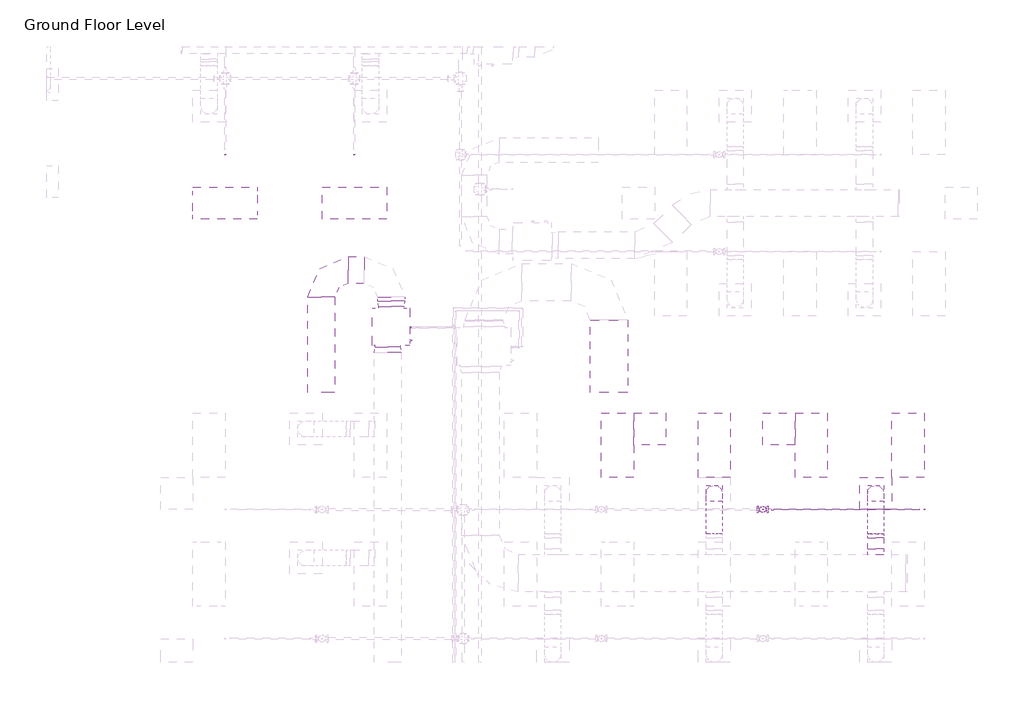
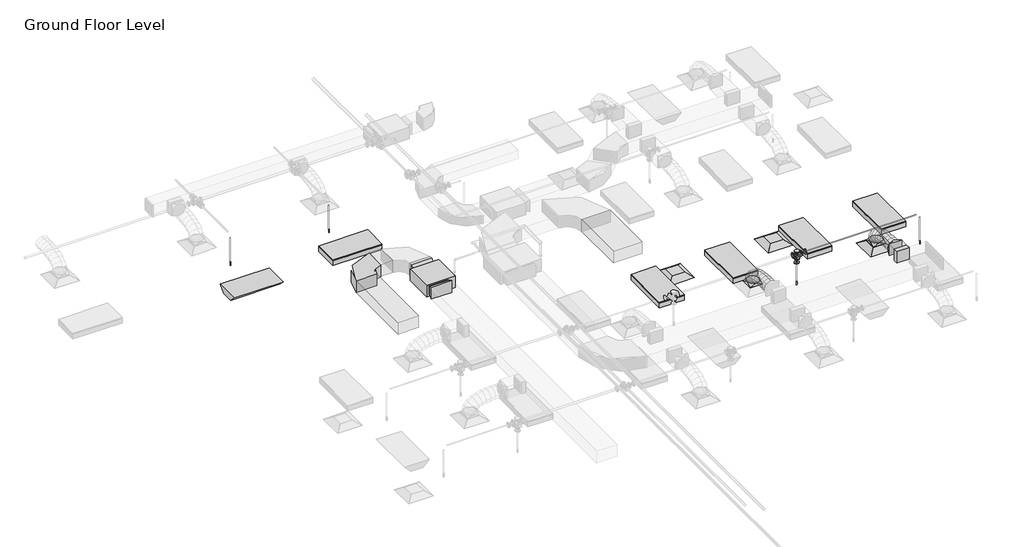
# One storey, part 32 of 66: 7 duct fittings, 7 duct segments, 6 light fixtures, 5 pipe segments, 4 fire suppression terminals, 3 air terminals, 3 pipe fittings, 1 proxy.
"""IFC4 building model written with IfcOpenShell, lengths in millimetres."""

from ifc_helpers import new_model, si_unit, point, frame, frame_2d, origin, place, context, project, spatial, polyline, circle_curve, ellipse_curve, trimmed, segment, composite_curve, outline, extrude, transform, mapped, element, save
from ifc_brep_helpers import plane_surface, cylinder_surface, advanced_brep
from components import m_return_diffuser_600_x_600_face_300_x_300_connection_ff221211, fcu_daikin_iu_bad131e0, m_rectangular_elbow_radius_1_w_abe20169, m_rectangular_takeoff_standard_cb0ccb98, m_rectangular_transition_angle_45_degree_3cf6e25b, m_rectangular_transition_angle_45_degree_f7c2916c, m_rectangular_to_round_transition_angle_45_degree_641efff0, m_sprinkler_dry_pendent_hosted_15_mm_dry_pendent_9bda8e11, m_emergency_recessed_lighting_fixture_600x1200_277_5b10b25d, m_troffer_light_parabolic_rectangular1_0600x1200mm_4_lamp_86473d4a, m_reducer_flanged_cs_class_150_standard_ccf252ad, m_tee_round_base_flanged_cs_class_150_standard_7e5987a1

model = new_model("IFC4")

# Units and contexts
model_context = context("Model", 3, world=origin())
ifc_project = project(units=[si_unit("LENGTHUNIT", "METRE", prefix="MILLI")], contexts=[model_context])

# Site, building, storey
site = spatial("IfcSite", under=ifc_project)
building = spatial("IfcBuilding", under=site)
storey = spatial("IfcBuildingStorey", under=building, Name="Ground Floor Level", Elevation=900.0)

# Air terminals
placement = place(None, origin())
m_return_diffuser_600_x_600_face_300_x_300_connection_shape = m_return_diffuser_600_x_600_face_300_x_300_connection_ff221211(model_context)
element("IfcAirTerminal", 1, ObjectType="M_Return Diffuser : 600 x 600 Face 300 x 300 Connection", at=placement, inside=storey, context=model_context, shape_type="MappedRepresentation", body=[
    mapped(m_return_diffuser_600_x_600_face_300_x_300_connection_shape, transform((9152.7672395, -9464.7846466, 3650.0), x_axis=(1.0, 0.0, 0.0), y_axis=(0.0, 1.0, 0.0), z_axis=(0.0, 0.0, 1.0))),
])
element("IfcAirTerminal", 2, ObjectType="M_Return Diffuser : 600 x 600 Face 300 x 300 Connection", at=placement, inside=storey, context=model_context, shape_type="MappedRepresentation", body=[
    mapped(m_return_diffuser_600_x_600_face_300_x_300_connection_shape, transform((11552.7672395, -9464.7846466, 3650.0), x_axis=(1.0, 0.0, 0.0), y_axis=(0.0, 1.0, 0.0), z_axis=(0.0, 0.0, 1.0))),
])
element("IfcAirTerminal", 3, ObjectType="M_Supply Diffuser : 600 x 600 Face 300 x 300 Connection", at=placement, inside=storey, context=model_context, shape_type="MappedRepresentation", body=[
    mapped(m_return_diffuser_600_x_600_face_300_x_300_connection_shape, transform((13352.7672395, -10664.7846466, 3650.0), x_axis=(1.0, 0.0, 0.0), y_axis=(0.0, 1.0, 0.0), z_axis=(0.0, 0.0, 1.0))),
])

# Proxy
fcu_daikin_iu_shape = fcu_daikin_iu_bad131e0(model_context)
element("IfcBuildingElementProxy", 4, Name="FCU-DAIKIN IU : 4.5kW, 230V/50Hz/1Ph", ObjectType="FCU-DAIKIN IU : 4.5kW, 230V/50Hz/1Ph", at=placement, inside=storey, context=model_context, shape_type="MappedRepresentation", body=[
    mapped(fcu_daikin_iu_shape, transform((4345.6581888, -7565.0566353, 3934.0874218), x_axis=(1.0, 0.0, 0.0), y_axis=(0.0, 1.0, 0.0), z_axis=(0.0, 0.0, 1.0))),
])

# Duct fittings
m_rectangular_elbow_radius_1_w_shape = m_rectangular_elbow_radius_1_w_abe20169(model_context)
element("IfcDuctFitting", 5, ObjectType="M_Rectangular Elbow - Radius : 1 W", at=placement, inside=storey, context=model_context, shape_type="MappedRepresentation", body=[
    mapped(m_rectangular_elbow_radius_1_w_shape, transform((3045.6581888, -6509.6566353, 4075.2874218), x_axis=(-1.0, 0.0, 0.0), y_axis=(0.0, -1.0, 0.0), z_axis=(0.0, 0.0, 1.0))),
])
m_rectangular_takeoff_standard_shape = m_rectangular_takeoff_standard_cb0ccb98(model_context)
element("IfcDuctFitting", 6, ObjectType="M_Rectangular Takeoff : Standard", at=placement, inside=storey, context=model_context, shape_type="MappedRepresentation", body=[
    mapped(m_rectangular_takeoff_standard_shape, transform((13352.7672395, -11799.3358641, 4099.9875), x_axis=(0.0, 1.0, 0.0), y_axis=(1.0, 0.0, 0.0), z_axis=(0.0, 0.0, -1.0))),
])
m_rectangular_transition_angle_45_degree_shape = m_rectangular_transition_angle_45_degree_3cf6e25b(model_context)
element("IfcDuctFitting", 7, ObjectType="M_Rectangular Transition - Angle : 45 Degree", at=placement, inside=storey, context=model_context, shape_type="MappedRepresentation", body=[
    mapped(m_rectangular_transition_angle_45_degree_shape, transform((4282.1581888, -7940.4566353, 4099.9999218), x_axis=(0.0, -1.0, 0.0), y_axis=(1.0, 0.0, 0.0), z_axis=(0.0, 0.0, 1.0))),
])
m_rectangular_transition_angle_45_degree_2_shape = m_rectangular_transition_angle_45_degree_f7c2916c(model_context)
element("IfcDuctFitting", 8, ObjectType="M_Rectangular Transition - Angle : 45 Degree", at=placement, inside=storey, context=model_context, shape_type="MappedRepresentation", body=[
    mapped(m_rectangular_transition_angle_45_degree_2_shape, transform((4345.6581888, -7189.6566353, 4075.2874218), x_axis=(0.0, 1.0, 0.0), y_axis=(-1.0, 0.0, 0.0), z_axis=(0.0, 0.0, 1.0))),
])
m_rectangular_to_round_transition_angle_45_degree_shape = m_rectangular_to_round_transition_angle_45_degree_641efff0(model_context)
element("IfcDuctFitting", 9, ObjectType="M_Rectangular to Round Transition - Angle : 45 Degree", at=placement, inside=storey, context=model_context, shape_type="MappedRepresentation", body=[
    mapped(m_rectangular_to_round_transition_angle_45_degree_shape, transform((10352.7672395, -10664.7846466, 3751.6), x_axis=(0.0, 0.0, 1.0), y_axis=(-1.0, 0.0, 0.0), z_axis=(0.0, -1.0, 0.0))),
])
element("IfcDuctFitting", 10, ObjectType="M_Rectangular to Round Transition - Angle : 45 Degree", at=placement, inside=storey, context=model_context, shape_type="MappedRepresentation", body=[
    mapped(m_rectangular_to_round_transition_angle_45_degree_shape, transform((13352.7672395, -10664.7846466, 3751.6), x_axis=(0.0, 0.0, 1.0), y_axis=(-1.0, 0.0, 0.0), z_axis=(0.0, -1.0, 0.0))),
])
element("IfcDuctFitting", 11, ObjectType="M_Rectangular to Round Transition - Angle : 45 Degree", at=placement, inside=storey, context=model_context, shape_type="MappedRepresentation", body=[
    mapped(m_rectangular_to_round_transition_angle_45_degree_shape, transform((13352.7672395, -11492.1330779, 4099.9875), x_axis=(0.0, 1.0, 0.0), y_axis=(-1.0, 0.0, 0.0), z_axis=(0.0, 0.0, 1.0))),
])

# Duct segments
element("IfcDuctSegment", 12, ObjectType="Flex - Round", at=placement, inside=storey, context=model_context, shape_type="AdvancedBrep", body=[
    advanced_brep(
    [(10502.7672395, -10664.7846466, 3826.6), (10352.7672395, -10814.7846466, 3826.6), (10202.7672395, -10664.7846466, 3826.6), (10352.7672395, -10514.7846466, 3826.6), (10502.7672395, -10664.7846466, 3857.9382361), (10352.7672395, -10814.7846466, 3832.2943726), (10202.7672395, -10664.7846466, 3857.9382361), (10352.7672395, -10514.7846466, 3883.5820996), (10502.7672395, -10681.8009258, 3906.2508008), (10352.7672395, -10815.5381175, 3834.4336246), (10202.7672395, -10681.8009258, 3906.2508008), (10352.7672395, -10548.0637341, 3978.0679769), (10502.7672395, -10728.9857498, 3968.710741), (10352.7672395, -10833.1895095, 3857.7992917), (10202.7672395, -10728.9857498, 3968.710741), (10352.7672395, -10624.78199, 4079.6221903), (10502.7672395, -10800.5430984, 4016.0679312), (10352.7672395, -10869.4737825, 3881.8124958), (10202.7672395, -10800.5430984, 4016.0679312), (10352.7672395, -10731.6124143, 4150.3233665), (10502.7672395, -10890.6769515, 4050.4104815), (10352.7672395, -10934.2340294, 3906.4872652), (10202.7672395, -10890.6769515, 4050.4104815), (10352.7672395, -10847.1198737, 4194.3336978), (10502.7672395, -10993.591289, 4073.8265025), (10352.7672395, -11020.1487195, 3926.0353694), (10202.7672395, -10993.591289, 4073.8265025), (10352.7672395, -10967.0338584, 4221.6176356), (10502.7672395, -11103.4900905, 4088.4041045), (10352.7672395, -11118.6379564, 3939.0995418), (10202.7672395, -11103.4900905, 4088.4041045), (10352.7672395, -11088.3422246, 4237.7086671), (10502.7672395, -11214.5773359, 4096.2313978), (10352.7672395, -11222.0803018, 3946.3881695), (10202.7672395, -11214.5773359, 4096.2313978), (10352.7672395, -11207.0743701, 4246.074626), (10502.7672395, -11321.0570051, 4099.3964928), (10352.7672395, -11323.7471101, 3949.4102029), (10202.7672395, -11321.0570051, 4099.3964928), (10352.7672395, -11318.3669002, 4249.3827828), (10502.7672395, -11417.1330779, 4099.9875), (10352.7672395, -11416.2103779, 4249.9846621), (10202.7672395, -11417.1330779, 4099.9875), (10352.7672395, -11418.0557779, 3949.9903379)],
    [
        (0, 1, circle_curve(frame((10352.7672395, -10664.7846466, 3826.6), z_axis=(0.0, 0.0, -1.0), x_axis=(1.0, 0.0, 0.0)), 150.0)),
        (1, 2, circle_curve(frame((10352.7672395, -10664.7846466, 3826.6), z_axis=(0.0, 0.0, -1.0), x_axis=(1.0, 0.0, 0.0)), 150.0)),
        (2, 3, circle_curve(frame((10352.7672395, -10664.7846466, 3826.6), z_axis=(0.0, 0.0, -1.0), x_axis=(1.0, 0.0, 0.0)), 150.0)),
        (3, 0, circle_curve(frame((10352.7672395, -10664.7846466, 3826.6), z_axis=(0.0, 0.0, -1.0), x_axis=(1.0, 0.0, 0.0)), 150.0)),
        (0, 4),
        (4, 5, ellipse_curve(frame((10352.7672395, -10664.7846466, 3857.9382361), z_axis=(0.0, 0.16851424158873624, -0.9856992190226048), x_axis=(0.0, -0.9856992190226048, -0.16851424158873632)), 152.1762391, 150.0)),
        (5, 1),
        (5, 6, ellipse_curve(frame((10352.7672395, -10664.7846466, 3857.9382361), z_axis=(0.0, 0.16851424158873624, -0.9856992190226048), x_axis=(0.0, -0.9856992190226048, -0.16851424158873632)), 152.1762391, 150.0)),
        (6, 2),
        (6, 7, ellipse_curve(frame((10352.7672395, -10664.7846466, 3857.9382361), z_axis=(0.0, 0.16851424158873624, -0.9856992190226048), x_axis=(0.0, -0.9856992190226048, -0.16851424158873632)), 152.1762391, 150.0)),
        (7, 3),
        (7, 4, ellipse_curve(frame((10352.7672395, -10664.7846466, 3857.9382361), z_axis=(0.0, 0.16851424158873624, -0.9856992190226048), x_axis=(0.0, -0.9856992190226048, -0.16851424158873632)), 152.1762391, 150.0)),
        (4, 8),
        (8, 9, ellipse_curve(frame((10352.7672395, -10681.8009258, 3906.2508008), z_axis=(0.0, 0.4731028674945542, -0.8810071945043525), x_axis=(0.0, -0.8810071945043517, -0.47310286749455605)), 151.80034, 150.0)),
        (9, 5),
        (9, 10, ellipse_curve(frame((10352.7672395, -10681.8009258, 3906.2508008), z_axis=(0.0, 0.4731028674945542, -0.8810071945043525), x_axis=(0.0, -0.8810071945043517, -0.47310286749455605)), 151.80034, 150.0)),
        (10, 6),
        (10, 11, ellipse_curve(frame((10352.7672395, -10681.8009258, 3906.2508008), z_axis=(0.0, 0.4731028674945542, -0.8810071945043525), x_axis=(0.0, -0.8810071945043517, -0.47310286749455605)), 151.80034, 150.0)),
        (11, 7),
        (11, 8, ellipse_curve(frame((10352.7672395, -10681.8009258, 3906.2508008), z_axis=(0.0, 0.4731028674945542, -0.8810071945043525), x_axis=(0.0, -0.8810071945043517, -0.47310286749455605)), 151.80034, 150.0)),
        (8, 12),
        (12, 13, ellipse_curve(frame((10352.7672395, -10728.9857498, 3968.710741), z_axis=(0.0, 0.7288014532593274, -0.6847250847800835), x_axis=(0.0, -0.6847250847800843, -0.7288014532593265)), 152.1833536, 150.0)),
        (13, 9),
        (13, 14, ellipse_curve(frame((10352.7672395, -10728.9857498, 3968.710741), z_axis=(0.0, 0.7288014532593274, -0.6847250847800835), x_axis=(0.0, -0.6847250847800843, -0.7288014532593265)), 152.1833536, 150.0)),
        (14, 10),
        (14, 15, ellipse_curve(frame((10352.7672395, -10728.9857498, 3968.710741), z_axis=(0.0, 0.7288014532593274, -0.6847250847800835), x_axis=(0.0, -0.6847250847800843, -0.7288014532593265)), 152.1833536, 150.0)),
        (15, 11),
        (15, 12, ellipse_curve(frame((10352.7672395, -10728.9857498, 3968.710741), z_axis=(0.0, 0.7288014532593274, -0.6847250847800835), x_axis=(0.0, -0.6847250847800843, -0.7288014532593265)), 152.1833536, 150.0)),
        (12, 16),
        (16, 17, ellipse_curve(frame((10352.7672395, -10800.5430984, 4016.0679312), z_axis=(0.0, 0.8895974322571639, -0.45674545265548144), x_axis=(0.0, -0.45674545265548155, -0.889597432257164)), 150.9170671, 150.0)),
        (17, 13),
        (17, 18, ellipse_curve(frame((10352.7672395, -10800.5430984, 4016.0679312), z_axis=(0.0, 0.8895974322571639, -0.45674545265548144), x_axis=(0.0, -0.45674545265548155, -0.889597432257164)), 150.9170671, 150.0)),
        (18, 14),
        (18, 19, ellipse_curve(frame((10352.7672395, -10800.5430984, 4016.0679312), z_axis=(0.0, 0.8895974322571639, -0.45674545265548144), x_axis=(0.0, -0.45674545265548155, -0.889597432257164)), 150.9170671, 150.0)),
        (19, 15),
        (19, 16, ellipse_curve(frame((10352.7672395, -10800.5430984, 4016.0679312), z_axis=(0.0, 0.8895974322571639, -0.45674545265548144), x_axis=(0.0, -0.45674545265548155, -0.889597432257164)), 150.9170671, 150.0)),
        (16, 20),
        (20, 21, ellipse_curve(frame((10352.7672395, -10890.6769515, 4050.4104815), z_axis=(0.0, 0.9571277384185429, -0.28966617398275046), x_axis=(0.0, -0.2896661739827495, -0.9571277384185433)), 150.3699146, 150.0)),
        (21, 17),
        (21, 22, ellipse_curve(frame((10352.7672395, -10890.6769515, 4050.4104815), z_axis=(0.0, 0.9571277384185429, -0.28966617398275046), x_axis=(0.0, -0.2896661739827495, -0.9571277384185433)), 150.3699146, 150.0)),
        (22, 18),
        (22, 23, ellipse_curve(frame((10352.7672395, -10890.6769515, 4050.4104815), z_axis=(0.0, 0.9571277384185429, -0.28966617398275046), x_axis=(0.0, -0.2896661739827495, -0.9571277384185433)), 150.3699146, 150.0)),
        (23, 19),
        (23, 20, ellipse_curve(frame((10352.7672395, -10890.6769515, 4050.4104815), z_axis=(0.0, 0.9571277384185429, -0.28966617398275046), x_axis=(0.0, -0.2896661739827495, -0.9571277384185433)), 150.3699146, 150.0)),
        (20, 24),
        (24, 25, ellipse_curve(frame((10352.7672395, -10993.591289, 4073.8265025), z_axis=(0.0, 0.9842355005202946, -0.17686288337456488), x_axis=(0.0, -0.17686288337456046, -0.9842355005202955)), 150.1583036, 150.0)),
        (25, 21),
        (25, 26, ellipse_curve(frame((10352.7672395, -10993.591289, 4073.8265025), z_axis=(0.0, 0.9842355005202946, -0.17686288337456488), x_axis=(0.0, -0.17686288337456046, -0.9842355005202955)), 150.1583036, 150.0)),
        (26, 22),
        (26, 27, ellipse_curve(frame((10352.7672395, -10993.591289, 4073.8265025), z_axis=(0.0, 0.9842355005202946, -0.17686288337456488), x_axis=(0.0, -0.17686288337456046, -0.9842355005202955)), 150.1583036, 150.0)),
        (27, 23),
        (27, 24, ellipse_curve(frame((10352.7672395, -10993.591289, 4073.8265025), z_axis=(0.0, 0.9842355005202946, -0.17686288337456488), x_axis=(0.0, -0.17686288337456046, -0.9842355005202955)), 150.1583036, 150.0)),
        (24, 28),
        (28, 29, ellipse_curve(frame((10352.7672395, -11103.4900905, 4088.4041045), z_axis=(0.0, 0.9948927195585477, -0.10093798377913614), x_axis=(0.0, -0.1009379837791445, -0.9948927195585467)), 150.0710174, 150.0)),
        (29, 25),
        (29, 30, ellipse_curve(frame((10352.7672395, -11103.4900905, 4088.4041045), z_axis=(0.0, 0.9948927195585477, -0.10093798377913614), x_axis=(0.0, -0.1009379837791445, -0.9948927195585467)), 150.0710174, 150.0)),
        (30, 26),
        (30, 31, ellipse_curve(frame((10352.7672395, -11103.4900905, 4088.4041045), z_axis=(0.0, 0.9948927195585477, -0.10093798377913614), x_axis=(0.0, -0.1009379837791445, -0.9948927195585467)), 150.0710174, 150.0)),
        (31, 27),
        (31, 28, ellipse_curve(frame((10352.7672395, -11103.4900905, 4088.4041045), z_axis=(0.0, 0.9948927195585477, -0.10093798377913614), x_axis=(0.0, -0.1009379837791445, -0.9948927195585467)), 150.0710174, 150.0)),
        (28, 32),
        (32, 33, ellipse_curve(frame((10352.7672395, -11214.5773359, 4096.2313978), z_axis=(0.0, 0.9987487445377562, -0.05000945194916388), x_axis=(0.0, -0.05000945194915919, -0.9987487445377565)), 150.0309553, 150.0)),
        (33, 29),
        (33, 34, ellipse_curve(frame((10352.7672395, -11214.5773359, 4096.2313978), z_axis=(0.0, 0.9987487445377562, -0.05000945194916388), x_axis=(0.0, -0.05000945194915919, -0.9987487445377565)), 150.0309553, 150.0)),
        (34, 30),
        (34, 35, ellipse_curve(frame((10352.7672395, -11214.5773359, 4096.2313978), z_axis=(0.0, 0.9987487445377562, -0.05000945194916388), x_axis=(0.0, -0.05000945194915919, -0.9987487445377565)), 150.0309553, 150.0)),
        (35, 31),
        (35, 32, ellipse_curve(frame((10352.7672395, -11214.5773359, 4096.2313978), z_axis=(0.0, 0.9987487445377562, -0.05000945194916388), x_axis=(0.0, -0.05000945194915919, -0.9987487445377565)), 150.0309553, 150.0)),
        (32, 36),
        (36, 37, ellipse_curve(frame((10352.7672395, -11321.0570051, 4099.3964928), z_axis=(0.0, 0.9998391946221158, -0.017932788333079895), x_axis=(0.0, -0.017932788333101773, -0.9998391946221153)), 150.0104124, 150.0)),
        (37, 33),
        (37, 38, ellipse_curve(frame((10352.7672395, -11321.0570051, 4099.3964928), z_axis=(0.0, 0.9998391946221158, -0.017932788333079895), x_axis=(0.0, -0.017932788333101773, -0.9998391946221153)), 150.0104124, 150.0)),
        (38, 34),
        (38, 39, ellipse_curve(frame((10352.7672395, -11321.0570051, 4099.3964928), z_axis=(0.0, 0.9998391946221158, -0.017932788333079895), x_axis=(0.0, -0.017932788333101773, -0.9998391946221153)), 150.0104124, 150.0)),
        (39, 35),
        (39, 36, ellipse_curve(frame((10352.7672395, -11321.0570051, 4099.3964928), z_axis=(0.0, 0.9998391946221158, -0.017932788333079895), x_axis=(0.0, -0.017932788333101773, -0.9998391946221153)), 150.0104124, 150.0)),
        (40, 41, circle_curve(frame((10352.7672395, -11417.1330779, 4099.9875), z_axis=(0.0, -0.999981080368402, 0.0061513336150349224), x_axis=(1.0, 0.0, 0.0)), 150.0)),
        (41, 42, circle_curve(frame((10352.7672395, -11417.1330779, 4099.9875), z_axis=(0.0, -0.999981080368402, 0.0061513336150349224), x_axis=(1.0, 0.0, 0.0)), 150.0)),
        (42, 43, circle_curve(frame((10352.7672395, -11417.1330779, 4099.9875), z_axis=(0.0, -0.999981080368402, 0.0061513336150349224), x_axis=(1.0, 0.0, 0.0)), 150.0)),
        (43, 40, circle_curve(frame((10352.7672395, -11417.1330779, 4099.9875), z_axis=(0.0, -0.999981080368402, 0.0061513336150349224), x_axis=(1.0, 0.0, 0.0)), 150.0)),
        (36, 40),
        (43, 37),
        (42, 38),
        (41, 39),
    ],
    [
        plane_surface(frame((10352.7672395, -10814.7846466, 3826.6), z_axis=(0.0, 0.0, -1.0), x_axis=(1.0, 0.0, 0.0))),
        cylinder_surface(frame((10352.7672395, -10664.7846466, 3826.6), z_axis=(0.0, 0.0, -1.0), x_axis=(1.0, 0.0, 0.0)), 150.0),
        cylinder_surface(frame((10352.7672395, -10664.7846466, 3857.9382361), z_axis=(0.0, 0.3322087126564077, -0.943205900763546), x_axis=(1.0, 0.0, 0.0)), 150.0),
        cylinder_surface(frame((10352.7672395, -10681.8009258, 3906.2508008), z_axis=(0.0, 0.6027750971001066, -0.797911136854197), x_axis=(1.0, 0.0, 0.0)), 150.0),
        cylinder_surface(frame((10352.7672395, -10728.9857498, 3968.710741), z_axis=(0.0, 0.8339157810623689, -0.5518917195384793), x_axis=(1.0, 0.0, 0.0)), 150.0),
        cylinder_surface(frame((10352.7672395, -10800.5430984, 4016.0679312), z_axis=(0.0, 0.9344675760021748, -0.3560482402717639), x_axis=(1.0, 0.0, 0.0)), 150.0),
        cylinder_surface(frame((10352.7672395, -10890.6769515, 4050.4104815), z_axis=(0.0, 0.9750787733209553, -0.22185893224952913), x_axis=(1.0, 0.0, 0.0)), 150.0),
        cylinder_surface(frame((10352.7672395, -10993.591289, 4073.8265025), z_axis=(0.0, 0.9913169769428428, -0.13149392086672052), x_axis=(1.0, 0.0, 0.0)), 150.0),
        cylinder_surface(frame((10352.7672395, -11103.4900905, 4088.4041045), z_axis=(0.0, 0.9975268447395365, -0.07028651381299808), x_axis=(1.0, 0.0, 0.0)), 150.0),
        cylinder_surface(frame((10352.7672395, -11214.5773359, 4096.2313978), z_axis=(0.0, 0.999558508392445, -0.029711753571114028), x_axis=(1.0, 0.0, 0.0)), 150.0),
        plane_surface(frame((10352.7672395, -11418.0557779, 3949.9903379), z_axis=(0.0, -0.999981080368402, 0.006151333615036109), x_axis=(1.0, 0.0, 0.0))),
        cylinder_surface(frame((10352.7672395, -11321.0570051, 4099.3964928), z_axis=(0.0, 0.999981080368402, -0.0061513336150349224), x_axis=(1.0, 0.0, 0.0)), 150.0),
    ],
    [
        (0, [[1, 2, 3, 4]]),
        (1, [[-1, 5, 6, 7]]),
        (1, [[-2, -7, 8, 9]]),
        (1, [[-3, -9, 10, 11]]),
        (1, [[-4, -11, 12, -5]]),
        (2, [[-6, 13, 14, 15]]),
        (2, [[-8, -15, 16, 17]]),
        (2, [[-10, -17, 18, 19]]),
        (2, [[-12, -19, 20, -13]]),
        (3, [[-14, 21, 22, 23]]),
        (3, [[-16, -23, 24, 25]]),
        (3, [[-18, -25, 26, 27]]),
        (3, [[-20, -27, 28, -21]]),
        (4, [[-22, 29, 30, 31]]),
        (4, [[-24, -31, 32, 33]]),
        (4, [[-26, -33, 34, 35]]),
        (4, [[-28, -35, 36, -29]]),
        (5, [[-30, 37, 38, 39]]),
        (5, [[-32, -39, 40, 41]]),
        (5, [[-34, -41, 42, 43]]),
        (5, [[-36, -43, 44, -37]]),
        (6, [[-38, 45, 46, 47]]),
        (6, [[-40, -47, 48, 49]]),
        (6, [[-42, -49, 50, 51]]),
        (6, [[-44, -51, 52, -45]]),
        (7, [[-46, 53, 54, 55]]),
        (7, [[-48, -55, 56, 57]]),
        (7, [[-50, -57, 58, 59]]),
        (7, [[-52, -59, 60, -53]]),
        (8, [[-54, 61, 62, 63]]),
        (8, [[-56, -63, 64, 65]]),
        (8, [[-58, -65, 66, 67]]),
        (8, [[-60, -67, 68, -61]]),
        (9, [[-62, 69, 70, 71]]),
        (9, [[-64, -71, 72, 73]]),
        (9, [[-66, -73, 74, 75]]),
        (9, [[-68, -75, 76, -69]]),
        (10, [[77, 78, 79, 80]]),
        (11, [[-70, 81, -80, 82]]),
        (11, [[-72, -82, -79, 83]]),
        (11, [[-74, -83, -78, 84]]),
        (11, [[-76, -84, -77, -81]]),
    ],
),
])
element("IfcDuctSegment", 13, ObjectType="Flex - Round", at=placement, inside=storey, context=model_context, shape_type="AdvancedBrep", body=[
    advanced_brep(
    [(13502.7672395, -10664.7846466, 3826.6), (13352.7672395, -10814.7846466, 3826.6), (13202.7672395, -10664.7846466, 3826.6), (13352.7672395, -10514.7846466, 3826.6), (13502.7672395, -10664.7846466, 3857.9382361), (13352.7672395, -10814.7846466, 3832.2943726), (13202.7672395, -10664.7846466, 3857.9382361), (13352.7672395, -10514.7846466, 3883.5820996), (13502.7672395, -10681.8009258, 3906.2508008), (13352.7672395, -10815.5381175, 3834.4336246), (13202.7672395, -10681.8009258, 3906.2508008), (13352.7672395, -10548.0637341, 3978.0679769), (13502.7672395, -10728.9857498, 3968.710741), (13352.7672395, -10833.1895095, 3857.7992917), (13202.7672395, -10728.9857498, 3968.710741), (13352.7672395, -10624.78199, 4079.6221903), (13502.7672395, -10800.5430984, 4016.0679312), (13352.7672395, -10869.4737825, 3881.8124958), (13202.7672395, -10800.5430984, 4016.0679312), (13352.7672395, -10731.6124143, 4150.3233665), (13502.7672395, -10890.6769515, 4050.4104815), (13352.7672395, -10934.2340294, 3906.4872652), (13202.7672395, -10890.6769515, 4050.4104815), (13352.7672395, -10847.1198737, 4194.3336978), (13502.7672395, -10993.591289, 4073.8265025), (13352.7672395, -11020.1487195, 3926.0353694), (13202.7672395, -10993.591289, 4073.8265025), (13352.7672395, -10967.0338584, 4221.6176356), (13502.7672395, -11103.4900905, 4088.4041045), (13352.7672395, -11118.6379564, 3939.0995418), (13202.7672395, -11103.4900905, 4088.4041045), (13352.7672395, -11088.3422246, 4237.7086671), (13502.7672395, -11214.5773359, 4096.2313978), (13352.7672395, -11222.0803018, 3946.3881695), (13202.7672395, -11214.5773359, 4096.2313978), (13352.7672395, -11207.0743701, 4246.074626), (13502.7672395, -11321.0570051, 4099.3964928), (13352.7672395, -11323.7471101, 3949.4102029), (13202.7672395, -11321.0570051, 4099.3964928), (13352.7672395, -11318.3669002, 4249.3827828), (13502.7672395, -11417.1330779, 4099.9875), (13352.7672395, -11416.2103779, 4249.9846621), (13202.7672395, -11417.1330779, 4099.9875), (13352.7672395, -11418.0557779, 3949.9903379)],
    [
        (0, 1, circle_curve(frame((13352.7672395, -10664.7846466, 3826.6), z_axis=(0.0, 0.0, -1.0), x_axis=(1.0, 0.0, 0.0)), 150.0)),
        (1, 2, circle_curve(frame((13352.7672395, -10664.7846466, 3826.6), z_axis=(0.0, 0.0, -1.0), x_axis=(1.0, 0.0, 0.0)), 150.0)),
        (2, 3, circle_curve(frame((13352.7672395, -10664.7846466, 3826.6), z_axis=(0.0, 0.0, -1.0), x_axis=(1.0, 0.0, 0.0)), 150.0)),
        (3, 0, circle_curve(frame((13352.7672395, -10664.7846466, 3826.6), z_axis=(0.0, 0.0, -1.0), x_axis=(1.0, 0.0, 0.0)), 150.0)),
        (0, 4),
        (4, 5, ellipse_curve(frame((13352.7672395, -10664.7846466, 3857.9382361), z_axis=(0.0, 0.16851424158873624, -0.9856992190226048), x_axis=(0.0, -0.9856992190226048, -0.16851424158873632)), 152.1762391, 150.0)),
        (5, 1),
        (5, 6, ellipse_curve(frame((13352.7672395, -10664.7846466, 3857.9382361), z_axis=(0.0, 0.16851424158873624, -0.9856992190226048), x_axis=(0.0, -0.9856992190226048, -0.16851424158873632)), 152.1762391, 150.0)),
        (6, 2),
        (6, 7, ellipse_curve(frame((13352.7672395, -10664.7846466, 3857.9382361), z_axis=(0.0, 0.16851424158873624, -0.9856992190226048), x_axis=(0.0, -0.9856992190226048, -0.16851424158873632)), 152.1762391, 150.0)),
        (7, 3),
        (7, 4, ellipse_curve(frame((13352.7672395, -10664.7846466, 3857.9382361), z_axis=(0.0, 0.16851424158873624, -0.9856992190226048), x_axis=(0.0, -0.9856992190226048, -0.16851424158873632)), 152.1762391, 150.0)),
        (4, 8),
        (8, 9, ellipse_curve(frame((13352.7672395, -10681.8009258, 3906.2508008), z_axis=(0.0, 0.4731028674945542, -0.8810071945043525), x_axis=(0.0, -0.8810071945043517, -0.47310286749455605)), 151.80034, 150.0)),
        (9, 5),
        (9, 10, ellipse_curve(frame((13352.7672395, -10681.8009258, 3906.2508008), z_axis=(0.0, 0.4731028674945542, -0.8810071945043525), x_axis=(0.0, -0.8810071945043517, -0.47310286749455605)), 151.80034, 150.0)),
        (10, 6),
        (10, 11, ellipse_curve(frame((13352.7672395, -10681.8009258, 3906.2508008), z_axis=(0.0, 0.4731028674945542, -0.8810071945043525), x_axis=(0.0, -0.8810071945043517, -0.47310286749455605)), 151.80034, 150.0)),
        (11, 7),
        (11, 8, ellipse_curve(frame((13352.7672395, -10681.8009258, 3906.2508008), z_axis=(0.0, 0.4731028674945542, -0.8810071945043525), x_axis=(0.0, -0.8810071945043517, -0.47310286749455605)), 151.80034, 150.0)),
        (8, 12),
        (12, 13, ellipse_curve(frame((13352.7672395, -10728.9857498, 3968.710741), z_axis=(0.0, 0.7288014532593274, -0.6847250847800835), x_axis=(0.0, -0.6847250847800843, -0.7288014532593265)), 152.1833536, 150.0)),
        (13, 9),
        (13, 14, ellipse_curve(frame((13352.7672395, -10728.9857498, 3968.710741), z_axis=(0.0, 0.7288014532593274, -0.6847250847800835), x_axis=(0.0, -0.6847250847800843, -0.7288014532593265)), 152.1833536, 150.0)),
        (14, 10),
        (14, 15, ellipse_curve(frame((13352.7672395, -10728.9857498, 3968.710741), z_axis=(0.0, 0.7288014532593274, -0.6847250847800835), x_axis=(0.0, -0.6847250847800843, -0.7288014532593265)), 152.1833536, 150.0)),
        (15, 11),
        (15, 12, ellipse_curve(frame((13352.7672395, -10728.9857498, 3968.710741), z_axis=(0.0, 0.7288014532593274, -0.6847250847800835), x_axis=(0.0, -0.6847250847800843, -0.7288014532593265)), 152.1833536, 150.0)),
        (12, 16),
        (16, 17, ellipse_curve(frame((13352.7672395, -10800.5430984, 4016.0679312), z_axis=(0.0, 0.8895974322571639, -0.45674545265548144), x_axis=(0.0, -0.45674545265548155, -0.889597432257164)), 150.9170671, 150.0)),
        (17, 13),
        (17, 18, ellipse_curve(frame((13352.7672395, -10800.5430984, 4016.0679312), z_axis=(0.0, 0.8895974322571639, -0.45674545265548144), x_axis=(0.0, -0.45674545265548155, -0.889597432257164)), 150.9170671, 150.0)),
        (18, 14),
        (18, 19, ellipse_curve(frame((13352.7672395, -10800.5430984, 4016.0679312), z_axis=(0.0, 0.8895974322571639, -0.45674545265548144), x_axis=(0.0, -0.45674545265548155, -0.889597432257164)), 150.9170671, 150.0)),
        (19, 15),
        (19, 16, ellipse_curve(frame((13352.7672395, -10800.5430984, 4016.0679312), z_axis=(0.0, 0.8895974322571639, -0.45674545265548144), x_axis=(0.0, -0.45674545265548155, -0.889597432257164)), 150.9170671, 150.0)),
        (16, 20),
        (20, 21, ellipse_curve(frame((13352.7672395, -10890.6769515, 4050.4104815), z_axis=(0.0, 0.9571277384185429, -0.28966617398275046), x_axis=(0.0, -0.2896661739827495, -0.9571277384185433)), 150.3699146, 150.0)),
        (21, 17),
        (21, 22, ellipse_curve(frame((13352.7672395, -10890.6769515, 4050.4104815), z_axis=(0.0, 0.9571277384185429, -0.28966617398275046), x_axis=(0.0, -0.2896661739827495, -0.9571277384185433)), 150.3699146, 150.0)),
        (22, 18),
        (22, 23, ellipse_curve(frame((13352.7672395, -10890.6769515, 4050.4104815), z_axis=(0.0, 0.9571277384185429, -0.28966617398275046), x_axis=(0.0, -0.2896661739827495, -0.9571277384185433)), 150.3699146, 150.0)),
        (23, 19),
        (23, 20, ellipse_curve(frame((13352.7672395, -10890.6769515, 4050.4104815), z_axis=(0.0, 0.9571277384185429, -0.28966617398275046), x_axis=(0.0, -0.2896661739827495, -0.9571277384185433)), 150.3699146, 150.0)),
        (20, 24),
        (24, 25, ellipse_curve(frame((13352.7672395, -10993.591289, 4073.8265025), z_axis=(0.0, 0.9842355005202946, -0.17686288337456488), x_axis=(0.0, -0.17686288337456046, -0.9842355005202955)), 150.1583036, 150.0)),
        (25, 21),
        (25, 26, ellipse_curve(frame((13352.7672395, -10993.591289, 4073.8265025), z_axis=(0.0, 0.9842355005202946, -0.17686288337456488), x_axis=(0.0, -0.17686288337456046, -0.9842355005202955)), 150.1583036, 150.0)),
        (26, 22),
        (26, 27, ellipse_curve(frame((13352.7672395, -10993.591289, 4073.8265025), z_axis=(0.0, 0.9842355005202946, -0.17686288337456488), x_axis=(0.0, -0.17686288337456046, -0.9842355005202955)), 150.1583036, 150.0)),
        (27, 23),
        (27, 24, ellipse_curve(frame((13352.7672395, -10993.591289, 4073.8265025), z_axis=(0.0, 0.9842355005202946, -0.17686288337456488), x_axis=(0.0, -0.17686288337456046, -0.9842355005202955)), 150.1583036, 150.0)),
        (24, 28),
        (28, 29, ellipse_curve(frame((13352.7672395, -11103.4900905, 4088.4041045), z_axis=(0.0, 0.9948927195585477, -0.10093798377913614), x_axis=(0.0, -0.1009379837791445, -0.9948927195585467)), 150.0710174, 150.0)),
        (29, 25),
        (29, 30, ellipse_curve(frame((13352.7672395, -11103.4900905, 4088.4041045), z_axis=(0.0, 0.9948927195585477, -0.10093798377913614), x_axis=(0.0, -0.1009379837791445, -0.9948927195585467)), 150.0710174, 150.0)),
        (30, 26),
        (30, 31, ellipse_curve(frame((13352.7672395, -11103.4900905, 4088.4041045), z_axis=(0.0, 0.9948927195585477, -0.10093798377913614), x_axis=(0.0, -0.1009379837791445, -0.9948927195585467)), 150.0710174, 150.0)),
        (31, 27),
        (31, 28, ellipse_curve(frame((13352.7672395, -11103.4900905, 4088.4041045), z_axis=(0.0, 0.9948927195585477, -0.10093798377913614), x_axis=(0.0, -0.1009379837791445, -0.9948927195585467)), 150.0710174, 150.0)),
        (28, 32),
        (32, 33, ellipse_curve(frame((13352.7672395, -11214.5773359, 4096.2313978), z_axis=(0.0, 0.9987487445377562, -0.05000945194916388), x_axis=(0.0, -0.05000945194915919, -0.9987487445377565)), 150.0309553, 150.0)),
        (33, 29),
        (33, 34, ellipse_curve(frame((13352.7672395, -11214.5773359, 4096.2313978), z_axis=(0.0, 0.9987487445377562, -0.05000945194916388), x_axis=(0.0, -0.05000945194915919, -0.9987487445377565)), 150.0309553, 150.0)),
        (34, 30),
        (34, 35, ellipse_curve(frame((13352.7672395, -11214.5773359, 4096.2313978), z_axis=(0.0, 0.9987487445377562, -0.05000945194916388), x_axis=(0.0, -0.05000945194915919, -0.9987487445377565)), 150.0309553, 150.0)),
        (35, 31),
        (35, 32, ellipse_curve(frame((13352.7672395, -11214.5773359, 4096.2313978), z_axis=(0.0, 0.9987487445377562, -0.05000945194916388), x_axis=(0.0, -0.05000945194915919, -0.9987487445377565)), 150.0309553, 150.0)),
        (32, 36),
        (36, 37, ellipse_curve(frame((13352.7672395, -11321.0570051, 4099.3964928), z_axis=(0.0, 0.9998391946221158, -0.017932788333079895), x_axis=(0.0, -0.017932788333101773, -0.9998391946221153)), 150.0104124, 150.0)),
        (37, 33),
        (37, 38, ellipse_curve(frame((13352.7672395, -11321.0570051, 4099.3964928), z_axis=(0.0, 0.9998391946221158, -0.017932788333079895), x_axis=(0.0, -0.017932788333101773, -0.9998391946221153)), 150.0104124, 150.0)),
        (38, 34),
        (38, 39, ellipse_curve(frame((13352.7672395, -11321.0570051, 4099.3964928), z_axis=(0.0, 0.9998391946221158, -0.017932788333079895), x_axis=(0.0, -0.017932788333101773, -0.9998391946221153)), 150.0104124, 150.0)),
        (39, 35),
        (39, 36, ellipse_curve(frame((13352.7672395, -11321.0570051, 4099.3964928), z_axis=(0.0, 0.9998391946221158, -0.017932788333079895), x_axis=(0.0, -0.017932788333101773, -0.9998391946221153)), 150.0104124, 150.0)),
        (40, 41, circle_curve(frame((13352.7672395, -11417.1330779, 4099.9875), z_axis=(0.0, -0.999981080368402, 0.0061513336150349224), x_axis=(1.0, 0.0, 0.0)), 150.0)),
        (41, 42, circle_curve(frame((13352.7672395, -11417.1330779, 4099.9875), z_axis=(0.0, -0.999981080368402, 0.0061513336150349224), x_axis=(1.0, 0.0, 0.0)), 150.0)),
        (42, 43, circle_curve(frame((13352.7672395, -11417.1330779, 4099.9875), z_axis=(0.0, -0.999981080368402, 0.0061513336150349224), x_axis=(1.0, 0.0, 0.0)), 150.0)),
        (43, 40, circle_curve(frame((13352.7672395, -11417.1330779, 4099.9875), z_axis=(0.0, -0.999981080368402, 0.0061513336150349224), x_axis=(1.0, 0.0, 0.0)), 150.0)),
        (36, 40),
        (43, 37),
        (42, 38),
        (41, 39),
    ],
    [
        plane_surface(frame((13352.7672395, -10814.7846466, 3826.6), z_axis=(0.0, 0.0, -1.0), x_axis=(1.0, 0.0, 0.0))),
        cylinder_surface(frame((13352.7672395, -10664.7846466, 3826.6), z_axis=(0.0, 0.0, -1.0), x_axis=(1.0, 0.0, 0.0)), 150.0),
        cylinder_surface(frame((13352.7672395, -10664.7846466, 3857.9382361), z_axis=(0.0, 0.3322087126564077, -0.943205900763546), x_axis=(1.0, 0.0, 0.0)), 150.0),
        cylinder_surface(frame((13352.7672395, -10681.8009258, 3906.2508008), z_axis=(0.0, 0.6027750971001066, -0.797911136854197), x_axis=(1.0, 0.0, 0.0)), 150.0),
        cylinder_surface(frame((13352.7672395, -10728.9857498, 3968.710741), z_axis=(0.0, 0.8339157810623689, -0.5518917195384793), x_axis=(1.0, 0.0, 0.0)), 150.0),
        cylinder_surface(frame((13352.7672395, -10800.5430984, 4016.0679312), z_axis=(0.0, 0.9344675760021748, -0.3560482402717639), x_axis=(1.0, 0.0, 0.0)), 150.0),
        cylinder_surface(frame((13352.7672395, -10890.6769515, 4050.4104815), z_axis=(0.0, 0.9750787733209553, -0.22185893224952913), x_axis=(1.0, 0.0, 0.0)), 150.0),
        cylinder_surface(frame((13352.7672395, -10993.591289, 4073.8265025), z_axis=(0.0, 0.9913169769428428, -0.13149392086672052), x_axis=(1.0, 0.0, 0.0)), 150.0),
        cylinder_surface(frame((13352.7672395, -11103.4900905, 4088.4041045), z_axis=(0.0, 0.9975268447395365, -0.07028651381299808), x_axis=(1.0, 0.0, 0.0)), 150.0),
        cylinder_surface(frame((13352.7672395, -11214.5773359, 4096.2313978), z_axis=(0.0, 0.999558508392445, -0.029711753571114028), x_axis=(1.0, 0.0, 0.0)), 150.0),
        plane_surface(frame((13352.7672395, -11418.0557779, 3949.9903379), z_axis=(0.0, -0.999981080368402, 0.006151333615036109), x_axis=(1.0, 0.0, 0.0))),
        cylinder_surface(frame((13352.7672395, -11321.0570051, 4099.3964928), z_axis=(0.0, 0.999981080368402, -0.0061513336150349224), x_axis=(1.0, 0.0, 0.0)), 150.0),
    ],
    [
        (0, [[1, 2, 3, 4]]),
        (1, [[-1, 5, 6, 7]]),
        (1, [[-2, -7, 8, 9]]),
        (1, [[-3, -9, 10, 11]]),
        (1, [[-4, -11, 12, -5]]),
        (2, [[-6, 13, 14, 15]]),
        (2, [[-8, -15, 16, 17]]),
        (2, [[-10, -17, 18, 19]]),
        (2, [[-12, -19, 20, -13]]),
        (3, [[-14, 21, 22, 23]]),
        (3, [[-16, -23, 24, 25]]),
        (3, [[-18, -25, 26, 27]]),
        (3, [[-20, -27, 28, -21]]),
        (4, [[-22, 29, 30, 31]]),
        (4, [[-24, -31, 32, 33]]),
        (4, [[-26, -33, 34, 35]]),
        (4, [[-28, -35, 36, -29]]),
        (5, [[-30, 37, 38, 39]]),
        (5, [[-32, -39, 40, 41]]),
        (5, [[-34, -41, 42, 43]]),
        (5, [[-36, -43, 44, -37]]),
        (6, [[-38, 45, 46, 47]]),
        (6, [[-40, -47, 48, 49]]),
        (6, [[-42, -49, 50, 51]]),
        (6, [[-44, -51, 52, -45]]),
        (7, [[-46, 53, 54, 55]]),
        (7, [[-48, -55, 56, 57]]),
        (7, [[-50, -57, 58, 59]]),
        (7, [[-52, -59, 60, -53]]),
        (8, [[-54, 61, 62, 63]]),
        (8, [[-56, -63, 64, 65]]),
        (8, [[-58, -65, 66, 67]]),
        (8, [[-60, -67, 68, -61]]),
        (9, [[-62, 69, 70, 71]]),
        (9, [[-64, -71, 72, 73]]),
        (9, [[-66, -73, 74, 75]]),
        (9, [[-68, -75, 76, -69]]),
        (10, [[77, 78, 79, 80]]),
        (11, [[-70, 81, -80, 82]]),
        (11, [[-72, -82, -79, 83]]),
        (11, [[-74, -83, -78, 84]]),
        (11, [[-76, -84, -77, -81]]),
    ],
),
])
element("IfcDuctSegment", 14, ObjectType="Radius Elbows / Taps", at=placement, inside=storey, context=model_context, shape_type="SweptSolid", body=[
    extrude(outline(polyline([(4595.6581888, -7086.2075842), (4095.6581888, -7086.2075842), (4095.6581888, -7009.6566353), (4595.6581888, -7009.6566353), (4595.6581888, -7086.2075842)])), frame((0.0, 0.0, 3925.2874218), z_axis=(0.0, 0.0, 1.0), x_axis=(1.0, 0.0, 0.0)), (0.0, 0.0, 1.0), 300.0),
])
element("IfcDuctSegment", 15, ObjectType="Radius Elbows / Taps", at=placement, inside=storey, context=model_context, shape_type="SweptSolid", body=[
    extrude(outline(polyline([(3845.6581888, -6259.6566353), (3845.6581888, -6759.6566353), (3545.6581888, -6759.6566353), (3545.6581888, -6259.6566353), (3845.6581888, -6259.6566353)])), frame((0.0, 0.0, 3925.2874218), z_axis=(0.0, 0.0, 1.0), x_axis=(1.0, 0.0, 0.0)), (0.0, 0.0, 1.0), 300.0),
])
element("IfcDuctSegment", 16, ObjectType="Radius Elbows / Taps", at=placement, inside=storey, context=model_context, shape_type="SweptSolid", body=[
    extrude(outline(polyline([(2795.6581888, -7009.6566353), (3295.6581888, -7009.6566353), (3295.6581888, -8789.6566353), (2795.6581888, -8789.6566353), (2795.6581888, -7009.6566353)])), frame((0.0, 0.0, 3925.2874218), z_axis=(0.0, 0.0, 1.0), x_axis=(1.0, 0.0, 0.0)), (0.0, 0.0, 1.0), 300.0),
])
element("IfcDuctSegment", 17, ObjectType="Radius Elbows / Taps", at=placement, inside=storey, context=model_context, shape_type="SweptSolid", body=[
    extrude(outline(polyline([(8043.4139492, -7438.5358641), (8743.4139492, -7438.5358641), (8743.4139492, -8789.6566353), (8043.4139492, -8789.6566353), (8043.4139492, -7438.5358641)])), frame((0.0, 0.0, 3925.2875), z_axis=(0.0, 0.0, 1.0), x_axis=(1.0, 0.0, 0.0)), (0.0, 0.0, 1.0), 300.0),
])
element("IfcDuctSegment", 18, ObjectType="Radius Elbows / Taps", at=placement, inside=storey, context=model_context, shape_type="SweptSolid", body=[
    extrude(outline(polyline([(13502.7672395, -11697.7358641), (13202.7672395, -11697.7358641), (13202.7672395, -11492.1330779), (13502.7672395, -11492.1330779), (13502.7672395, -11697.7358641)])), frame((0.0, 0.0, 3949.9875), z_axis=(0.0, 0.0, 1.0), x_axis=(1.0, 0.0, 0.0)), (0.0, 0.0, 1.0), 300.0),
])

# Fire suppression terminals
m_sprinkler_dry_pendent_hosted_15_mm_dry_pendent_shape = m_sprinkler_dry_pendent_hosted_15_mm_dry_pendent_9bda8e11(model_context)
element("IfcFireSuppressionTerminal", 19, ObjectType="M_Sprinkler - Dry - Pendent - Hosted : 15 mm Dry Pendent", at=placement, inside=storey, context=model_context, shape_type="MappedRepresentation", body=[
    mapped(m_sprinkler_dry_pendent_hosted_15_mm_dry_pendent_shape, transform((3662.7672395, -4364.7846466, 3650.0), x_axis=(1.0, 0.0, 0.0), y_axis=(0.0, -1.0, 0.0), z_axis=(0.0, 0.0, -1.0))),
])
element("IfcFireSuppressionTerminal", 20, ObjectType="M_Sprinkler - Dry - Pendent - Hosted : 15 mm Dry Pendent", at=placement, inside=storey, context=model_context, shape_type="MappedRepresentation", body=[
    mapped(m_sprinkler_dry_pendent_hosted_15_mm_dry_pendent_shape, transform((1262.7672395, -4364.7846466, 3650.0), x_axis=(1.0, 0.0, 0.0), y_axis=(0.0, -1.0, 0.0), z_axis=(0.0, 0.0, -1.0))),
])
element("IfcFireSuppressionTerminal", 21, ObjectType="M_Sprinkler - Dry - Pendent - Hosted : 15 mm Dry Pendent", at=placement, inside=storey, context=model_context, shape_type="MappedRepresentation", body=[
    mapped(m_sprinkler_dry_pendent_hosted_15_mm_dry_pendent_shape, transform((11252.7672395, -10964.7846466, 3650.0), x_axis=(1.0, 0.0, 0.0), y_axis=(0.0, -1.0, 0.0), z_axis=(0.0, 0.0, -1.0))),
])
element("IfcFireSuppressionTerminal", 22, ObjectType="M_Sprinkler - Dry - Pendent - Hosted : 15 mm Dry Pendent", at=placement, inside=storey, context=model_context, shape_type="MappedRepresentation", body=[
    mapped(m_sprinkler_dry_pendent_hosted_15_mm_dry_pendent_shape, transform((14252.7672395, -10964.7846466, 3650.0), x_axis=(1.0, 0.0, 0.0), y_axis=(0.0, -1.0, 0.0), z_axis=(0.0, 0.0, -1.0))),
])

# Light fixtures
m_emergency_recessed_lighting_fixture_600x1200_277_shape = m_emergency_recessed_lighting_fixture_600x1200_277_5b10b25d(model_context)
element("IfcLightFixture", 23, ObjectType="M_Emergency Recessed Lighting Fixture : 600x1200 - 277", at=placement, inside=storey, context=model_context, shape_type="MappedRepresentation", body=[
    mapped(m_emergency_recessed_lighting_fixture_600x1200_277_shape, transform((662.7672395, -4964.7846466, 3650.0), x_axis=(1.0, 0.0, 0.0), y_axis=(0.0, 1.0, 0.0), z_axis=(0.0, 0.0, 1.0))),
])
m_troffer_light_parabolic_rectangular1_0600x1200mm_4_lamp_shape = m_troffer_light_parabolic_rectangular1_0600x1200mm_4_lamp_86473d4a(model_context)
element("IfcLightFixture", 24, ObjectType="M_Troffer Light - Parabolic Rectangular1 : 0600x1200mm(4 Lamp) - 277V 2", at=placement, inside=storey, context=model_context, shape_type="MappedRepresentation", body=[
    mapped(m_troffer_light_parabolic_rectangular1_0600x1200mm_4_lamp_shape, transform((13893.3013074, -9746.081145, 3650.0), x_axis=(0.0, 1.0, 0.0), y_axis=(-1.0, 0.0, 0.0), z_axis=(0.0, 0.0, 1.0))),
])
element("IfcLightFixture", 25, ObjectType="M_Troffer Light - Parabolic Rectangular1 : 0600x1200mm(4 Lamp) - 277V 2", at=placement, inside=storey, context=model_context, shape_type="MappedRepresentation", body=[
    mapped(m_troffer_light_parabolic_rectangular1_0600x1200mm_4_lamp_shape, transform((8493.3013074, -9746.081145, 3650.0), x_axis=(0.0, 1.0, 0.0), y_axis=(-1.0, 0.0, 0.0), z_axis=(0.0, 0.0, 1.0))),
])
element("IfcLightFixture", 26, ObjectType="M_Troffer Light - Parabolic Rectangular1 : 0600x1200mm(4 Lamp) - 277V 2", at=placement, inside=storey, context=model_context, shape_type="MappedRepresentation", body=[
    mapped(m_troffer_light_parabolic_rectangular1_0600x1200mm_4_lamp_shape, transform((10293.3013074, -9746.081145, 3650.0), x_axis=(0.0, 1.0, 0.0), y_axis=(-1.0, 0.0, 0.0), z_axis=(0.0, 0.0, 1.0))),
])
element("IfcLightFixture", 27, ObjectType="M_Troffer Light - Parabolic Rectangular1 : 0600x1200mm(4 Lamp) - 277V 2", at=placement, inside=storey, context=model_context, shape_type="MappedRepresentation", body=[
    mapped(m_troffer_light_parabolic_rectangular1_0600x1200mm_4_lamp_shape, transform((12093.3013074, -9746.081145, 3650.0), x_axis=(0.0, 1.0, 0.0), y_axis=(-1.0, 0.0, 0.0), z_axis=(0.0, 0.0, 1.0))),
])
element("IfcLightFixture", 28, ObjectType="M_Troffer Light - Parabolic Rectangular1 : 0600x1200mm(4 Lamp) - 277V 2", at=placement, inside=storey, context=model_context, shape_type="MappedRepresentation", body=[
    mapped(m_troffer_light_parabolic_rectangular1_0600x1200mm_4_lamp_shape, transform((3681.4707411, -5205.3187145, 3650.0), x_axis=(1.0, 0.0, 0.0), y_axis=(0.0, 1.0, 0.0), z_axis=(0.0, 0.0, 1.0))),
])

# Pipe fittings
m_reducer_flanged_cs_class_150_standard_shape = m_reducer_flanged_cs_class_150_standard_ccf252ad(model_context)
element("IfcPipeFitting", 29, ObjectType="M_Reducer - Flanged - CS - Class 150 : Standard", at=placement, inside=storey, context=model_context, shape_type="MappedRepresentation", body=[
    mapped(m_reducer_flanged_cs_class_150_standard_shape, transform((11353.4758332, -10964.7846466, 4347.5), x_axis=(1.0, 0.0, 0.0), y_axis=(0.0, 0.0, 1.0), z_axis=(0.0, -1.0, 0.0))),
])
element("IfcPipeFitting", 30, ObjectType="M_Reducer - Flanged - CS - Class 150 : Standard", at=placement, inside=storey, context=model_context, shape_type="MappedRepresentation", body=[
    mapped(m_reducer_flanged_cs_class_150_standard_shape, transform((11252.7672395, -10964.7846466, 4246.7914062), x_axis=(0.0, 0.0, -1.0), y_axis=(-1.0, 0.0, 0.0), z_axis=(0.0, 1.0, 0.0))),
])
m_tee_round_base_flanged_cs_class_150_standard_shape = m_tee_round_base_flanged_cs_class_150_standard_7e5987a1(model_context)
element("IfcPipeFitting", 31, ObjectType="M_Tee Round Base - Flanged - CS - Class 150 : Standard", at=placement, inside=storey, context=model_context, shape_type="MappedRepresentation", body=[
    mapped(m_tee_round_base_flanged_cs_class_150_standard_shape, transform((11252.7672395, -10964.7846466, 4347.5), x_axis=(1.0, 0.0, 0.0), y_axis=(0.0, 0.0, 1.0), z_axis=(0.0, -1.0, 0.0))),
])

# Pipe segments
element("IfcPipeSegment", 32, ObjectType="Steel flanged", at=placement, inside=storey, context=model_context, shape_type="SweptSolid", body=[
    extrude(outline(composite_curve([segment(trimmed(circle_curve(frame_2d((3662.7672395, -4364.7846466)), 10.668), [point((3652.0992395, -4364.7846466))], [point((3662.7672395, -4354.1166466))], False, "CARTESIAN"), True, "CONTINUOUS"), segment(trimmed(circle_curve(frame_2d((3662.7672395, -4364.7846466)), 10.668), [point((3662.7672395, -4354.1166466))], [point((3673.4352395, -4364.7846466))], False, "CARTESIAN"), True, "CONTINUOUS"), segment(trimmed(circle_curve(frame_2d((3662.7672395, -4364.7846466)), 10.668), [point((3673.4352395, -4364.7846466))], [point((3662.7672395, -4375.4526466))], False, "CARTESIAN"), True, "CONTINUOUS"), segment(trimmed(circle_curve(frame_2d((3662.7672395, -4364.7846466)), 10.668), [point((3662.7672395, -4375.4526466))], [point((3652.0992395, -4364.7846466))], False, "CARTESIAN"), True, "CONTINUOUS")], self_intersect=False)), frame((0.0, 0.0, 3650.0), z_axis=(0.0, 0.0, 1.0), x_axis=(1.0, 0.0, 0.0)), (0.0, 0.0, 1.0), 616.9914063),
])
element("IfcPipeSegment", 33, ObjectType="Steel flanged", at=placement, inside=storey, context=model_context, shape_type="SweptSolid", body=[
    extrude(outline(composite_curve([segment(trimmed(circle_curve(frame_2d((1262.7672395, -4364.7846466)), 10.668), [point((1252.0992395, -4364.7846466))], [point((1262.7672395, -4354.1166466))], False, "CARTESIAN"), True, "CONTINUOUS"), segment(trimmed(circle_curve(frame_2d((1262.7672395, -4364.7846466)), 10.668), [point((1262.7672395, -4354.1166466))], [point((1273.4352395, -4364.7846466))], False, "CARTESIAN"), True, "CONTINUOUS"), segment(trimmed(circle_curve(frame_2d((1262.7672395, -4364.7846466)), 10.668), [point((1273.4352395, -4364.7846466))], [point((1262.7672395, -4375.4526466))], False, "CARTESIAN"), True, "CONTINUOUS"), segment(trimmed(circle_curve(frame_2d((1262.7672395, -4364.7846466)), 10.668), [point((1262.7672395, -4375.4526466))], [point((1252.0992395, -4364.7846466))], False, "CARTESIAN"), True, "CONTINUOUS")], self_intersect=False)), frame((0.0, 0.0, 3650.0), z_axis=(0.0, 0.0, 1.0), x_axis=(1.0, 0.0, 0.0)), (0.0, 0.0, 1.0), 616.9914063),
])
element("IfcPipeSegment", 34, ObjectType="Steel flanged", at=placement, inside=storey, context=model_context, shape_type="SweptSolid", body=[
    extrude(outline(composite_curve([segment(trimmed(circle_curve(frame_2d((14252.7672395, -10964.7846466)), 10.668), [point((14242.0992395, -10964.7846466))], [point((14252.7672395, -10954.1166466))], False, "CARTESIAN"), True, "CONTINUOUS"), segment(trimmed(circle_curve(frame_2d((14252.7672395, -10964.7846466)), 10.668), [point((14252.7672395, -10954.1166466))], [point((14263.4352395, -10964.7846466))], False, "CARTESIAN"), True, "CONTINUOUS"), segment(trimmed(circle_curve(frame_2d((14252.7672395, -10964.7846466)), 10.668), [point((14263.4352395, -10964.7846466))], [point((14252.7672395, -10975.4526466))], False, "CARTESIAN"), True, "CONTINUOUS"), segment(trimmed(circle_curve(frame_2d((14252.7672395, -10964.7846466)), 10.668), [point((14252.7672395, -10975.4526466))], [point((14242.0992395, -10964.7846466))], False, "CARTESIAN"), True, "CONTINUOUS")], self_intersect=False)), frame((0.0, 0.0, 3650.0), z_axis=(0.0, 0.0, 1.0), x_axis=(1.0, 0.0, 0.0)), (0.0, 0.0, 1.0), 604.4914062),
])
element("IfcPipeSegment", 35, ObjectType="Steel flanged", at=placement, inside=storey, context=model_context, shape_type="SweptSolid", body=[
    extrude(outline(composite_curve([segment(trimmed(circle_curve(frame_2d((11252.7672395, -10964.7846466)), 10.668), [point((11242.0992395, -10964.7846466))], [point((11252.7672395, -10954.1166466))], False, "CARTESIAN"), True, "CONTINUOUS"), segment(trimmed(circle_curve(frame_2d((11252.7672395, -10964.7846466)), 10.668), [point((11252.7672395, -10954.1166466))], [point((11263.4352395, -10964.7846466))], False, "CARTESIAN"), True, "CONTINUOUS"), segment(trimmed(circle_curve(frame_2d((11252.7672395, -10964.7846466)), 10.668), [point((11263.4352395, -10964.7846466))], [point((11252.7672395, -10975.4526466))], False, "CARTESIAN"), True, "CONTINUOUS"), segment(trimmed(circle_curve(frame_2d((11252.7672395, -10964.7846466)), 10.668), [point((11252.7672395, -10975.4526466))], [point((11242.0992395, -10964.7846466))], False, "CARTESIAN"), True, "CONTINUOUS")], self_intersect=False)), frame((0.0, 0.0, 3650.0), z_axis=(0.0, 0.0, 1.0), x_axis=(1.0, 0.0, 0.0)), (0.0, 0.0, 1.0), 482.7914062),
])
element("IfcPipeSegment", 36, ObjectType="Steel flanged", at=placement, inside=storey, context=model_context, shape_type="SweptSolid", body=[
    extrude(outline(composite_curve([segment(trimmed(circle_curve(frame_2d((-10964.7846466, 4347.5)), 10.668), [point((-10954.1166466, 4347.5))], [point((-10964.7846466, 4336.832))], False, "CARTESIAN"), True, "CONTINUOUS"), segment(trimmed(circle_curve(frame_2d((-10964.7846466, 4347.5)), 10.668), [point((-10964.7846466, 4336.832))], [point((-10975.4526466, 4347.5))], False, "CARTESIAN"), True, "CONTINUOUS"), segment(trimmed(circle_curve(frame_2d((-10964.7846466, 4347.5)), 10.668), [point((-10975.4526466, 4347.5))], [point((-10964.7846466, 4358.168))], False, "CARTESIAN"), True, "CONTINUOUS"), segment(trimmed(circle_curve(frame_2d((-10964.7846466, 4347.5)), 10.668), [point((-10964.7846466, 4358.168))], [point((-10954.1166466, 4347.5))], False, "CARTESIAN"), True, "CONTINUOUS")], self_intersect=False)), frame((11467.4758332, 0.0, 0.0), z_axis=(1.0, 0.0, 0.0), x_axis=(0.0, 1.0, 0.0)), (0.0, 0.0, 1.0), 2692.2828125),
])

save(model, "model.ifc")
